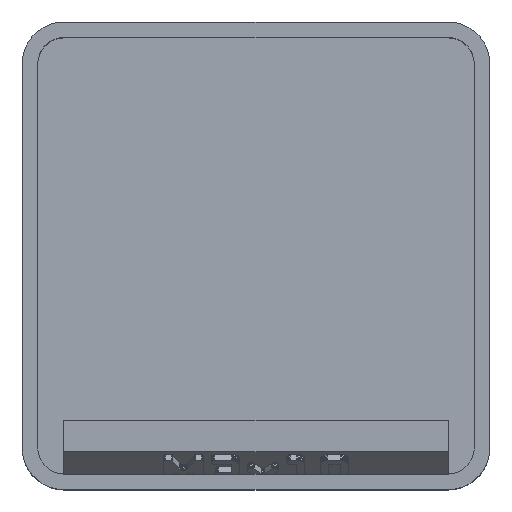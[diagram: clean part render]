
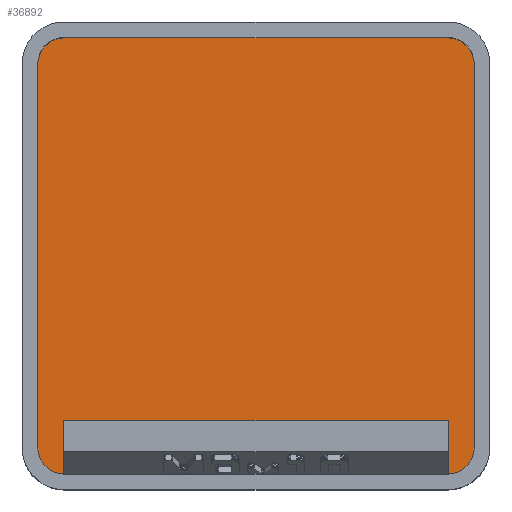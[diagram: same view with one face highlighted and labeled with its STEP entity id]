
A CAD part, top view. The second image highlights one B-rep face of the part: STEP entity #36892.
In plain terms, the highlighted planar face has unit normal (0, 0, 1).
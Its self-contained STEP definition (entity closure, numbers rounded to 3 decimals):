
#912 = PLANE('',#913);
#913 = AXIS2_PLACEMENT_3D('',#914,#915,#916);
#914 = CARTESIAN_POINT('',(-19.6,0.,25.));
#915 = DIRECTION('',(-1.,0.,0.));
#916 = DIRECTION('',(-0.,-1.,-0.));
#940 = CYLINDRICAL_SURFACE('',#941,2.35);
#941 = AXIS2_PLACEMENT_3D('',#942,#943,#944);
#942 = CARTESIAN_POINT('',(-17.25,17.25,5.95));
#943 = DIRECTION('',(-0.,-0.,1.));
#944 = DIRECTION('',(-1.,0.,0.));
#967 = PLANE('',#968);
#968 = AXIS2_PLACEMENT_3D('',#969,#970,#971);
#969 = CARTESIAN_POINT('',(0.,19.6,25.));
#970 = DIRECTION('',(0.,1.,0.));
#971 = DIRECTION('',(-1.,0.,0.));
#995 = CYLINDRICAL_SURFACE('',#996,2.35);
#996 = AXIS2_PLACEMENT_3D('',#997,#998,#999);
#997 = CARTESIAN_POINT('',(17.25,17.25,5.95));
#998 = DIRECTION('',(-0.,-0.,1.));
#999 = DIRECTION('',(-1.,0.,0.));
#1022 = PLANE('',#1023);
#1023 = AXIS2_PLACEMENT_3D('',#1024,#1025,#1026);
#1024 = CARTESIAN_POINT('',(19.6,0.,25.));
#1025 = DIRECTION('',(1.,0.,0.));
#1026 = DIRECTION('',(-0.,1.,0.));
#1050 = CYLINDRICAL_SURFACE('',#1051,2.35);
#1051 = AXIS2_PLACEMENT_3D('',#1052,#1053,#1054);
#1052 = CARTESIAN_POINT('',(17.25,-17.25,5.95));
#1053 = DIRECTION('',(-0.,-0.,1.));
#1054 = DIRECTION('',(-1.,0.,0.));
#1103 = CYLINDRICAL_SURFACE('',#1104,2.35);
#1104 = AXIS2_PLACEMENT_3D('',#1105,#1106,#1107);
#1105 = CARTESIAN_POINT('',(-17.25,-17.25,5.95));
#1106 = DIRECTION('',(-0.,-0.,1.));
#1107 = DIRECTION('',(-1.,0.,0.));
#13757 = EDGE_CURVE('',#13758,#13760,#13762,.T.);
#13758 = VERTEX_POINT('',#13759);
#13759 = CARTESIAN_POINT('',(-19.6,-17.25,5.95));
#13760 = VERTEX_POINT('',#13761);
#13761 = CARTESIAN_POINT('',(-19.6,17.25,5.95));
#13762 = SURFACE_CURVE('',#13763,(#13767,#13774),.PCURVE_S1.);
#13763 = LINE('',#13764,#13765);
#13764 = CARTESIAN_POINT('',(-19.6,0.,5.95));
#13765 = VECTOR('',#13766,1.);
#13766 = DIRECTION('',(0.,1.,0.));
#13767 = PCURVE('',#912,#13768);
#13768 = DEFINITIONAL_REPRESENTATION('',(#13769),#13773);
#13769 = LINE('',#13770,#13771);
#13770 = CARTESIAN_POINT('',(0.,-19.05));
#13771 = VECTOR('',#13772,1.);
#13772 = DIRECTION('',(-1.,0.));
#13773 = ( GEOMETRIC_REPRESENTATION_CONTEXT(2) 
PARAMETRIC_REPRESENTATION_CONTEXT() REPRESENTATION_CONTEXT('2D SPACE',''
  ) );
#13774 = PCURVE('',#13775,#13780);
#13775 = PLANE('',#13776);
#13776 = AXIS2_PLACEMENT_3D('',#13777,#13778,#13779);
#13777 = CARTESIAN_POINT('',(-17.25,-17.25,5.95));
#13778 = DIRECTION('',(0.,0.,-1.));
#13779 = DIRECTION('',(-1.,0.,0.));
#13780 = DEFINITIONAL_REPRESENTATION('',(#13781),#13785);
#13781 = LINE('',#13782,#13783);
#13782 = CARTESIAN_POINT('',(2.35,17.25));
#13783 = VECTOR('',#13784,1.);
#13784 = DIRECTION('',(0.,1.));
#13785 = ( GEOMETRIC_REPRESENTATION_CONTEXT(2) 
PARAMETRIC_REPRESENTATION_CONTEXT() REPRESENTATION_CONTEXT('2D SPACE',''
  ) );
#13832 = EDGE_CURVE('',#13833,#13758,#13835,.T.);
#13833 = VERTEX_POINT('',#13834);
#13834 = CARTESIAN_POINT('',(-17.25,-19.6,5.95));
#13835 = SURFACE_CURVE('',#13836,(#13841,#13848),.PCURVE_S1.);
#13836 = CIRCLE('',#13837,2.35);
#13837 = AXIS2_PLACEMENT_3D('',#13838,#13839,#13840);
#13838 = CARTESIAN_POINT('',(-17.25,-17.25,5.95));
#13839 = DIRECTION('',(0.,0.,-1.));
#13840 = DIRECTION('',(-1.,0.,0.));
#13841 = PCURVE('',#1103,#13842);
#13842 = DEFINITIONAL_REPRESENTATION('',(#13843),#13847);
#13843 = LINE('',#13844,#13845);
#13844 = CARTESIAN_POINT('',(6.283,0.));
#13845 = VECTOR('',#13846,1.);
#13846 = DIRECTION('',(-1.,0.));
#13847 = ( GEOMETRIC_REPRESENTATION_CONTEXT(2) 
PARAMETRIC_REPRESENTATION_CONTEXT() REPRESENTATION_CONTEXT('2D SPACE',''
  ) );
#13848 = PCURVE('',#13775,#13849);
#13849 = DEFINITIONAL_REPRESENTATION('',(#13850),#13854);
#13850 = CIRCLE('',#13851,2.35);
#13851 = AXIS2_PLACEMENT_2D('',#13852,#13853);
#13852 = CARTESIAN_POINT('',(0.,0.));
#13853 = DIRECTION('',(1.,0.));
#13854 = ( GEOMETRIC_REPRESENTATION_CONTEXT(2) 
PARAMETRIC_REPRESENTATION_CONTEXT() REPRESENTATION_CONTEXT('2D SPACE',''
  ) );
#13872 = PLANE('',#13873);
#13873 = AXIS2_PLACEMENT_3D('',#13874,#13875,#13876);
#13874 = CARTESIAN_POINT('',(0.,-19.6,25.));
#13875 = DIRECTION('',(0.,-1.,0.));
#13876 = DIRECTION('',(1.,0.,0.));
#13959 = EDGE_CURVE('',#13960,#13962,#13964,.T.);
#13960 = VERTEX_POINT('',#13961);
#13961 = CARTESIAN_POINT('',(19.6,-17.25,5.95));
#13962 = VERTEX_POINT('',#13963);
#13963 = CARTESIAN_POINT('',(17.25,-19.6,5.95));
#13964 = SURFACE_CURVE('',#13965,(#13970,#13977),.PCURVE_S1.);
#13965 = CIRCLE('',#13966,2.35);
#13966 = AXIS2_PLACEMENT_3D('',#13967,#13968,#13969);
#13967 = CARTESIAN_POINT('',(17.25,-17.25,5.95));
#13968 = DIRECTION('',(0.,0.,-1.));
#13969 = DIRECTION('',(-1.,0.,0.));
#13970 = PCURVE('',#1050,#13971);
#13971 = DEFINITIONAL_REPRESENTATION('',(#13972),#13976);
#13972 = LINE('',#13973,#13974);
#13973 = CARTESIAN_POINT('',(6.283,0.));
#13974 = VECTOR('',#13975,1.);
#13975 = DIRECTION('',(-1.,0.));
#13976 = ( GEOMETRIC_REPRESENTATION_CONTEXT(2) 
PARAMETRIC_REPRESENTATION_CONTEXT() REPRESENTATION_CONTEXT('2D SPACE',''
  ) );
#13977 = PCURVE('',#13775,#13978);
#13978 = DEFINITIONAL_REPRESENTATION('',(#13979),#13983);
#13979 = CIRCLE('',#13980,2.35);
#13980 = AXIS2_PLACEMENT_2D('',#13981,#13982);
#13981 = CARTESIAN_POINT('',(-34.5,0.));
#13982 = DIRECTION('',(1.,0.));
#13983 = ( GEOMETRIC_REPRESENTATION_CONTEXT(2) 
PARAMETRIC_REPRESENTATION_CONTEXT() REPRESENTATION_CONTEXT('2D SPACE',''
  ) );
#14057 = EDGE_CURVE('',#13960,#14058,#14060,.T.);
#14058 = VERTEX_POINT('',#14059);
#14059 = CARTESIAN_POINT('',(19.6,17.25,5.95));
#14060 = SURFACE_CURVE('',#14061,(#14065,#14072),.PCURVE_S1.);
#14061 = LINE('',#14062,#14063);
#14062 = CARTESIAN_POINT('',(19.6,0.,5.95));
#14063 = VECTOR('',#14064,1.);
#14064 = DIRECTION('',(0.,1.,0.));
#14065 = PCURVE('',#1022,#14066);
#14066 = DEFINITIONAL_REPRESENTATION('',(#14067),#14071);
#14067 = LINE('',#14068,#14069);
#14068 = CARTESIAN_POINT('',(0.,-19.05));
#14069 = VECTOR('',#14070,1.);
#14070 = DIRECTION('',(1.,0.));
#14071 = ( GEOMETRIC_REPRESENTATION_CONTEXT(2) 
PARAMETRIC_REPRESENTATION_CONTEXT() REPRESENTATION_CONTEXT('2D SPACE',''
  ) );
#14072 = PCURVE('',#13775,#14073);
#14073 = DEFINITIONAL_REPRESENTATION('',(#14074),#14078);
#14074 = LINE('',#14075,#14076);
#14075 = CARTESIAN_POINT('',(-36.85,17.25));
#14076 = VECTOR('',#14077,1.);
#14077 = DIRECTION('',(0.,1.));
#14078 = ( GEOMETRIC_REPRESENTATION_CONTEXT(2) 
PARAMETRIC_REPRESENTATION_CONTEXT() REPRESENTATION_CONTEXT('2D SPACE',''
  ) );
#14105 = EDGE_CURVE('',#14106,#14058,#14108,.T.);
#14106 = VERTEX_POINT('',#14107);
#14107 = CARTESIAN_POINT('',(17.25,19.6,5.95));
#14108 = SURFACE_CURVE('',#14109,(#14114,#14121),.PCURVE_S1.);
#14109 = CIRCLE('',#14110,2.35);
#14110 = AXIS2_PLACEMENT_3D('',#14111,#14112,#14113);
#14111 = CARTESIAN_POINT('',(17.25,17.25,5.95));
#14112 = DIRECTION('',(0.,0.,-1.));
#14113 = DIRECTION('',(-1.,0.,0.));
#14114 = PCURVE('',#995,#14115);
#14115 = DEFINITIONAL_REPRESENTATION('',(#14116),#14120);
#14116 = LINE('',#14117,#14118);
#14117 = CARTESIAN_POINT('',(6.283,0.));
#14118 = VECTOR('',#14119,1.);
#14119 = DIRECTION('',(-1.,0.));
#14120 = ( GEOMETRIC_REPRESENTATION_CONTEXT(2) 
PARAMETRIC_REPRESENTATION_CONTEXT() REPRESENTATION_CONTEXT('2D SPACE',''
  ) );
#14121 = PCURVE('',#13775,#14122);
#14122 = DEFINITIONAL_REPRESENTATION('',(#14123),#14127);
#14123 = CIRCLE('',#14124,2.35);
#14124 = AXIS2_PLACEMENT_2D('',#14125,#14126);
#14125 = CARTESIAN_POINT('',(-34.5,34.5));
#14126 = DIRECTION('',(1.,0.));
#14127 = ( GEOMETRIC_REPRESENTATION_CONTEXT(2) 
PARAMETRIC_REPRESENTATION_CONTEXT() REPRESENTATION_CONTEXT('2D SPACE',''
  ) );
#14155 = EDGE_CURVE('',#14156,#14106,#14158,.T.);
#14156 = VERTEX_POINT('',#14157);
#14157 = CARTESIAN_POINT('',(-17.25,19.6,5.95));
#14158 = SURFACE_CURVE('',#14159,(#14163,#14170),.PCURVE_S1.);
#14159 = LINE('',#14160,#14161);
#14160 = CARTESIAN_POINT('',(0.,19.6,5.95));
#14161 = VECTOR('',#14162,1.);
#14162 = DIRECTION('',(1.,0.,0.));
#14163 = PCURVE('',#967,#14164);
#14164 = DEFINITIONAL_REPRESENTATION('',(#14165),#14169);
#14165 = LINE('',#14166,#14167);
#14166 = CARTESIAN_POINT('',(0.,-19.05));
#14167 = VECTOR('',#14168,1.);
#14168 = DIRECTION('',(-1.,0.));
#14169 = ( GEOMETRIC_REPRESENTATION_CONTEXT(2) 
PARAMETRIC_REPRESENTATION_CONTEXT() REPRESENTATION_CONTEXT('2D SPACE',''
  ) );
#14170 = PCURVE('',#13775,#14171);
#14171 = DEFINITIONAL_REPRESENTATION('',(#14172),#14176);
#14172 = LINE('',#14173,#14174);
#14173 = CARTESIAN_POINT('',(-17.25,36.85));
#14174 = VECTOR('',#14175,1.);
#14175 = DIRECTION('',(-1.,0.));
#14176 = ( GEOMETRIC_REPRESENTATION_CONTEXT(2) 
PARAMETRIC_REPRESENTATION_CONTEXT() REPRESENTATION_CONTEXT('2D SPACE',''
  ) );
#14204 = EDGE_CURVE('',#13760,#14156,#14205,.T.);
#14205 = SURFACE_CURVE('',#14206,(#14211,#14218),.PCURVE_S1.);
#14206 = CIRCLE('',#14207,2.35);
#14207 = AXIS2_PLACEMENT_3D('',#14208,#14209,#14210);
#14208 = CARTESIAN_POINT('',(-17.25,17.25,5.95));
#14209 = DIRECTION('',(0.,0.,-1.));
#14210 = DIRECTION('',(-1.,0.,0.));
#14211 = PCURVE('',#940,#14212);
#14212 = DEFINITIONAL_REPRESENTATION('',(#14213),#14217);
#14213 = LINE('',#14214,#14215);
#14214 = CARTESIAN_POINT('',(6.283,0.));
#14215 = VECTOR('',#14216,1.);
#14216 = DIRECTION('',(-1.,0.));
#14217 = ( GEOMETRIC_REPRESENTATION_CONTEXT(2) 
PARAMETRIC_REPRESENTATION_CONTEXT() REPRESENTATION_CONTEXT('2D SPACE',''
  ) );
#14218 = PCURVE('',#13775,#14219);
#14219 = DEFINITIONAL_REPRESENTATION('',(#14220),#14224);
#14220 = CIRCLE('',#14221,2.35);
#14221 = AXIS2_PLACEMENT_2D('',#14222,#14223);
#14222 = CARTESIAN_POINT('',(0.,34.5));
#14223 = DIRECTION('',(1.,0.));
#14224 = ( GEOMETRIC_REPRESENTATION_CONTEXT(2) 
PARAMETRIC_REPRESENTATION_CONTEXT() REPRESENTATION_CONTEXT('2D SPACE',''
  ) );
#36892 = ADVANCED_FACE('',(#36893),#13775,.F.);
#36893 = FACE_BOUND('',#36894,.T.);
#36894 = EDGE_LOOP('',(#36895,#36896,#36897,#36918,#36919,#36920,#36921,
    #36922));
#36895 = ORIENTED_EDGE('',*,*,#13757,.F.);
#36896 = ORIENTED_EDGE('',*,*,#13832,.F.);
#36897 = ORIENTED_EDGE('',*,*,#36898,.T.);
#36898 = EDGE_CURVE('',#13833,#13962,#36899,.T.);
#36899 = SURFACE_CURVE('',#36900,(#36904,#36911),.PCURVE_S1.);
#36900 = LINE('',#36901,#36902);
#36901 = CARTESIAN_POINT('',(0.,-19.6,5.95));
#36902 = VECTOR('',#36903,1.);
#36903 = DIRECTION('',(1.,0.,0.));
#36904 = PCURVE('',#13775,#36905);
#36905 = DEFINITIONAL_REPRESENTATION('',(#36906),#36910);
#36906 = LINE('',#36907,#36908);
#36907 = CARTESIAN_POINT('',(-17.25,-2.35));
#36908 = VECTOR('',#36909,1.);
#36909 = DIRECTION('',(-1.,0.));
#36910 = ( GEOMETRIC_REPRESENTATION_CONTEXT(2) 
PARAMETRIC_REPRESENTATION_CONTEXT() REPRESENTATION_CONTEXT('2D SPACE',''
  ) );
#36911 = PCURVE('',#13872,#36912);
#36912 = DEFINITIONAL_REPRESENTATION('',(#36913),#36917);
#36913 = LINE('',#36914,#36915);
#36914 = CARTESIAN_POINT('',(0.,-19.05));
#36915 = VECTOR('',#36916,1.);
#36916 = DIRECTION('',(1.,0.));
#36917 = ( GEOMETRIC_REPRESENTATION_CONTEXT(2) 
PARAMETRIC_REPRESENTATION_CONTEXT() REPRESENTATION_CONTEXT('2D SPACE',''
  ) );
#36918 = ORIENTED_EDGE('',*,*,#13959,.F.);
#36919 = ORIENTED_EDGE('',*,*,#14057,.T.);
#36920 = ORIENTED_EDGE('',*,*,#14105,.F.);
#36921 = ORIENTED_EDGE('',*,*,#14155,.F.);
#36922 = ORIENTED_EDGE('',*,*,#14204,.F.);
